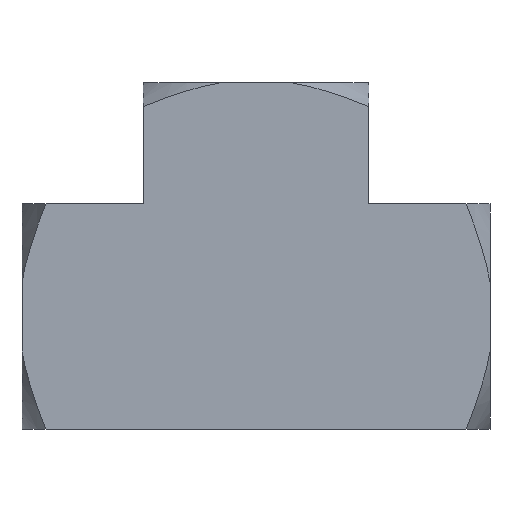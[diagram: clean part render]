
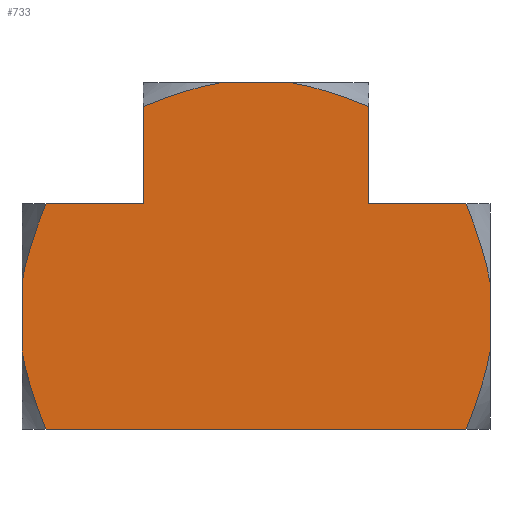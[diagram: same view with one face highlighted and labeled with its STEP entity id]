
A CAD part, front view. The second image highlights one B-rep face of the part: STEP entity #733.
In plain terms, the highlighted planar face has unit normal (0, -1, 0).
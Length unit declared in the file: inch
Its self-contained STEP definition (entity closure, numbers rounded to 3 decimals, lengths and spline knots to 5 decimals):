
#21=(
BOUNDED_CURVE()
B_SPLINE_CURVE(2,(#1267,#1268,#1269),.UNSPECIFIED.,.F.,.F.)
B_SPLINE_CURVE_WITH_KNOTS((3,3),(0.,0.75449),.UNSPECIFIED.)
CURVE()
GEOMETRIC_REPRESENTATION_ITEM()
RATIONAL_B_SPLINE_CURVE((1.,1.043,1.))
REPRESENTATION_ITEM('')
);
#22=(
BOUNDED_CURVE()
B_SPLINE_CURVE(2,(#1271,#1272,#1273),.UNSPECIFIED.,.F.,.F.)
B_SPLINE_CURVE_WITH_KNOTS((3,3),(0.,0.75449),.UNSPECIFIED.)
CURVE()
GEOMETRIC_REPRESENTATION_ITEM()
RATIONAL_B_SPLINE_CURVE((1.,1.043,1.))
REPRESENTATION_ITEM('')
);
#31=(
BOUNDED_CURVE()
B_SPLINE_CURVE(2,(#1313,#1314,#1315),.UNSPECIFIED.,.F.,.F.)
B_SPLINE_CURVE_WITH_KNOTS((3,3),(0.,0.7526),.UNSPECIFIED.)
CURVE()
GEOMETRIC_REPRESENTATION_ITEM()
RATIONAL_B_SPLINE_CURVE((1.,1.043,1.))
REPRESENTATION_ITEM('')
);
#32=(
BOUNDED_CURVE()
B_SPLINE_CURVE(2,(#1316,#1317,#1318),.UNSPECIFIED.,.F.,.F.)
B_SPLINE_CURVE_WITH_KNOTS((3,3),(0.,0.7526),.UNSPECIFIED.)
CURVE()
GEOMETRIC_REPRESENTATION_ITEM()
RATIONAL_B_SPLINE_CURVE((1.,1.043,1.))
REPRESENTATION_ITEM('')
);
#33=(
BOUNDED_CURVE()
B_SPLINE_CURVE(2,(#1319,#1320,#1321),.UNSPECIFIED.,.F.,.F.)
B_SPLINE_CURVE_WITH_KNOTS((3,3),(0.,0.7526),.UNSPECIFIED.)
CURVE()
GEOMETRIC_REPRESENTATION_ITEM()
RATIONAL_B_SPLINE_CURVE((1.,1.043,1.))
REPRESENTATION_ITEM('')
);
#34=(
BOUNDED_CURVE()
B_SPLINE_CURVE(2,(#1322,#1323,#1324),.UNSPECIFIED.,.F.,.F.)
B_SPLINE_CURVE_WITH_KNOTS((3,3),(0.,0.7526),.UNSPECIFIED.)
CURVE()
GEOMETRIC_REPRESENTATION_ITEM()
RATIONAL_B_SPLINE_CURVE((1.,1.043,1.))
REPRESENTATION_ITEM('')
);
#63=PLANE('',#835);
#105=FACE_OUTER_BOUND('',#151,.T.);
#151=EDGE_LOOP('',(#634,#635,#636,#637,#638,#639,#640,#641,#642,#643,#644,
#645,#646,#647));
#166=LINE('',#1090,#203);
#171=LINE('',#1117,#208);
#177=LINE('',#1148,#214);
#189=LINE('',#1239,#226);
#190=LINE('',#1250,#227);
#191=LINE('',#1255,#228);
#195=LINE('',#1292,#232);
#197=LINE('',#1308,#234);
#203=VECTOR('',#874,0.3937);
#208=VECTOR('',#901,0.3937);
#214=VECTOR('',#931,0.3937);
#226=VECTOR('',#999,0.3937);
#227=VECTOR('',#1004,0.3937);
#228=VECTOR('',#1011,0.3937);
#232=VECTOR('',#1035,0.3937);
#234=VECTOR('',#1039,0.3937);
#289=VERTEX_POINT('',#1087);
#290=VERTEX_POINT('',#1089);
#300=VERTEX_POINT('',#1114);
#301=VERTEX_POINT('',#1116);
#313=VERTEX_POINT('',#1145);
#314=VERTEX_POINT('',#1147);
#339=VERTEX_POINT('',#1236);
#340=VERTEX_POINT('',#1238);
#341=VERTEX_POINT('',#1247);
#342=VERTEX_POINT('',#1249);
#343=VERTEX_POINT('',#1253);
#348=VERTEX_POINT('',#1288);
#351=VERTEX_POINT('',#1303);
#352=VERTEX_POINT('',#1307);
#366=EDGE_CURVE('',#289,#290,#166,.T.);
#379=EDGE_CURVE('',#300,#301,#171,.T.);
#394=EDGE_CURVE('',#313,#314,#177,.T.);
#429=EDGE_CURVE('',#340,#339,#189,.T.);
#433=EDGE_CURVE('',#341,#342,#190,.T.);
#436=EDGE_CURVE('',#343,#339,#191,.T.);
#442=EDGE_CURVE('',#342,#313,#21,.T.);
#443=EDGE_CURVE('',#314,#343,#22,.T.);
#449=EDGE_CURVE('',#341,#348,#195,.T.);
#454=EDGE_CURVE('',#351,#352,#197,.T.);
#456=EDGE_CURVE('',#290,#348,#31,.T.);
#457=EDGE_CURVE('',#352,#289,#32,.T.);
#458=EDGE_CURVE('',#301,#351,#33,.T.);
#459=EDGE_CURVE('',#340,#300,#34,.T.);
#634=ORIENTED_EDGE('',*,*,#456,.F.);
#635=ORIENTED_EDGE('',*,*,#366,.F.);
#636=ORIENTED_EDGE('',*,*,#457,.F.);
#637=ORIENTED_EDGE('',*,*,#454,.F.);
#638=ORIENTED_EDGE('',*,*,#458,.F.);
#639=ORIENTED_EDGE('',*,*,#379,.F.);
#640=ORIENTED_EDGE('',*,*,#459,.F.);
#641=ORIENTED_EDGE('',*,*,#429,.T.);
#642=ORIENTED_EDGE('',*,*,#436,.F.);
#643=ORIENTED_EDGE('',*,*,#443,.F.);
#644=ORIENTED_EDGE('',*,*,#394,.F.);
#645=ORIENTED_EDGE('',*,*,#442,.F.);
#646=ORIENTED_EDGE('',*,*,#433,.F.);
#647=ORIENTED_EDGE('',*,*,#449,.T.);
#733=ADVANCED_FACE('',(#105),#63,.F.);
#835=AXIS2_PLACEMENT_3D('',#1312,#1040,#1041);
#874=DIRECTION('',(0.,0.,1.));
#901=DIRECTION('',(0.,0.,-1.));
#931=DIRECTION('',(1.,0.,0.));
#999=DIRECTION('',(-1.,0.,0.));
#1004=DIRECTION('',(0.,0.,1.));
#1011=DIRECTION('',(0.,0.,-1.));
#1035=DIRECTION('',(-1.,0.,0.));
#1039=DIRECTION('',(-1.,0.,0.));
#1040=DIRECTION('center_axis',(0.,1.,0.));
#1041=DIRECTION('ref_axis',(0.,0.,-1.));
#1087=CARTESIAN_POINT('',(-0.843,-0.4065,-0.12361));
#1089=CARTESIAN_POINT('',(-0.843,-0.4065,0.12361));
#1090=CARTESIAN_POINT('',(-0.843,-0.4065,0.20325));
#1114=CARTESIAN_POINT('',(0.843,-0.4065,0.12361));
#1116=CARTESIAN_POINT('',(0.843,-0.4065,-0.12361));
#1117=CARTESIAN_POINT('',(0.843,-0.4065,0.20325));
#1145=CARTESIAN_POINT('',(-0.1223,-0.4065,0.8435));
#1147=CARTESIAN_POINT('',(0.1223,-0.4065,0.8435));
#1148=CARTESIAN_POINT('',(-0.20325,-0.4065,0.8435));
#1236=CARTESIAN_POINT('',(0.40597,-0.4065,0.4065));
#1238=CARTESIAN_POINT('',(0.7564,-0.4065,0.4065));
#1239=CARTESIAN_POINT('',(0.,-0.4065,0.4065));
#1247=CARTESIAN_POINT('',(-0.40597,-0.4065,0.4065));
#1249=CARTESIAN_POINT('',(-0.40597,-0.4065,0.7569));
#1250=CARTESIAN_POINT('',(-0.40597,-0.4065,0.4065));
#1253=CARTESIAN_POINT('',(0.40597,-0.4065,0.7569));
#1255=CARTESIAN_POINT('',(0.40597,-0.4065,0.4065));
#1267=CARTESIAN_POINT('Ctrl Pts',(-0.40597,-0.4065,0.7569));
#1268=CARTESIAN_POINT('Ctrl Pts',(-0.24284,-0.4065,0.82345));
#1269=CARTESIAN_POINT('Ctrl Pts',(-0.1223,-0.4065,0.8435));
#1271=CARTESIAN_POINT('Ctrl Pts',(0.1223,-0.4065,0.8435));
#1272=CARTESIAN_POINT('Ctrl Pts',(0.24284,-0.4065,0.82345));
#1273=CARTESIAN_POINT('Ctrl Pts',(0.40597,-0.4065,0.7569));
#1288=CARTESIAN_POINT('',(-0.7564,-0.4065,0.4065));
#1292=CARTESIAN_POINT('',(0.,-0.4065,0.4065));
#1303=CARTESIAN_POINT('',(0.7564,-0.4065,-0.4065));
#1307=CARTESIAN_POINT('',(-0.7564,-0.4065,-0.4065));
#1308=CARTESIAN_POINT('',(0.,-0.4065,-0.4065));
#1312=CARTESIAN_POINT('Origin',(0.843,-0.4065,0.4065));
#1313=CARTESIAN_POINT('Ctrl Pts',(-0.843,-0.4065,0.12361));
#1314=CARTESIAN_POINT('Ctrl Pts',(-0.82281,-0.4065,0.24383));
#1315=CARTESIAN_POINT('Ctrl Pts',(-0.7564,-0.4065,0.4065));
#1316=CARTESIAN_POINT('Ctrl Pts',(-0.7564,-0.4065,-0.4065));
#1317=CARTESIAN_POINT('Ctrl Pts',(-0.82281,-0.4065,-0.24383));
#1318=CARTESIAN_POINT('Ctrl Pts',(-0.843,-0.4065,-0.12361));
#1319=CARTESIAN_POINT('Ctrl Pts',(0.843,-0.4065,-0.12361));
#1320=CARTESIAN_POINT('Ctrl Pts',(0.82281,-0.4065,-0.24383));
#1321=CARTESIAN_POINT('Ctrl Pts',(0.7564,-0.4065,-0.4065));
#1322=CARTESIAN_POINT('Ctrl Pts',(0.7564,-0.4065,0.4065));
#1323=CARTESIAN_POINT('Ctrl Pts',(0.82281,-0.4065,0.24383));
#1324=CARTESIAN_POINT('Ctrl Pts',(0.843,-0.4065,0.12361));
